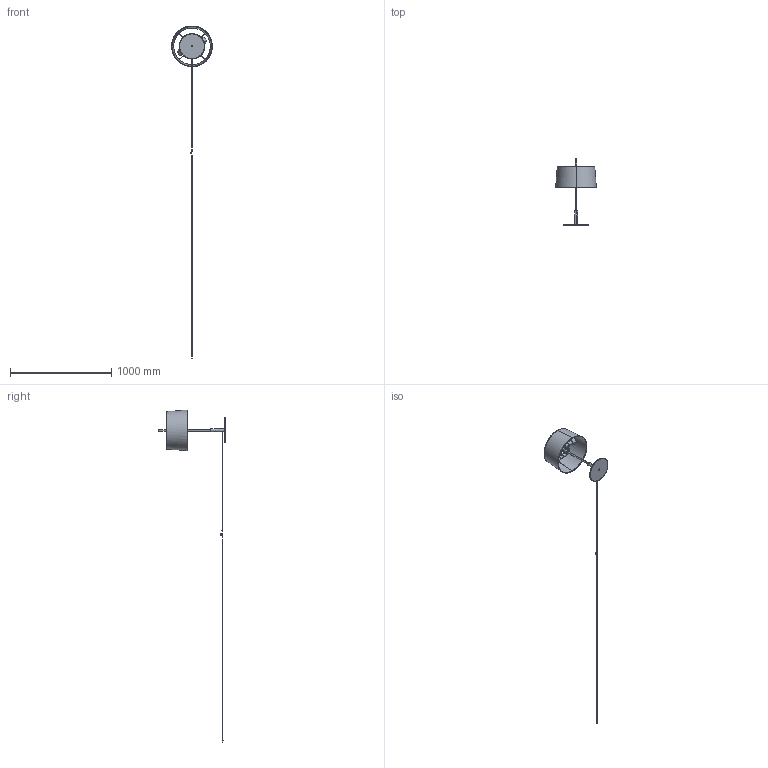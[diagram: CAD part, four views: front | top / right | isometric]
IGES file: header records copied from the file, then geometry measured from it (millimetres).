
Start section: SolidWorks IGES file using NURBS representation for surfaces
Global section: file name: C:\Users\aitor.torredeflot\Desktop\diana menor2.IGS; native system: SolidWorks 2016; preprocessor: SolidWorks 2016; author: aitor.torredeflot; date: 161028.143357; units: millimetre
Bounding box: 402.01 x 656.6 x 3282 mm (x, y, z)
Surface area: 930494.9 mm2 (no closed solid volume)
Topology: 0 solids, 0 shells, 137 faces, 2962 edges, 2962 vertices
Faces by surface type: bspline 137
